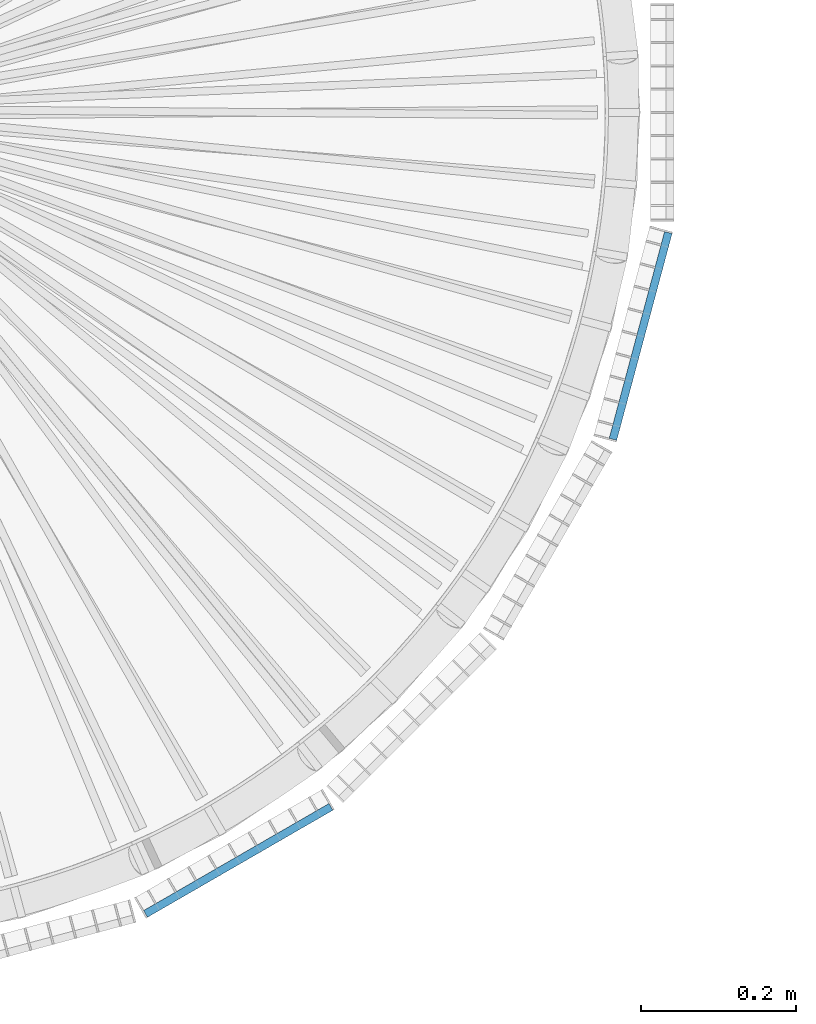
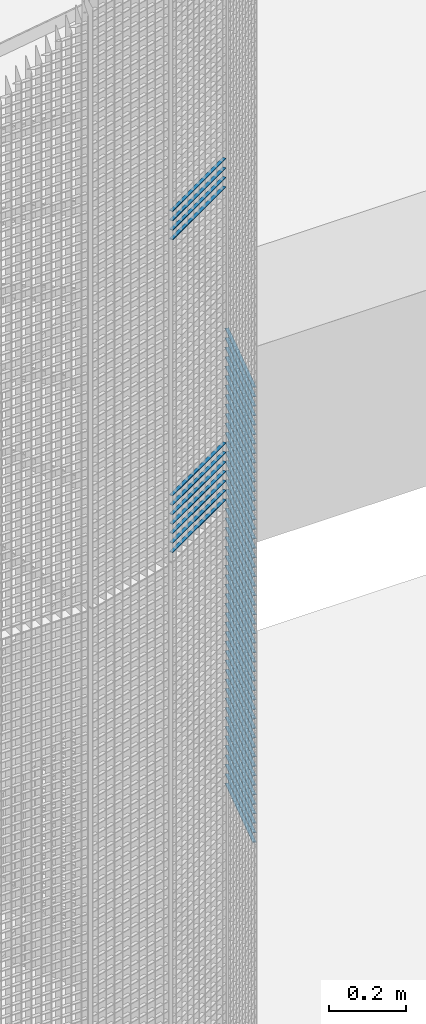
# One storey, part 233 of 1148: 60 beams, 2 elements without a shape of their own.
"""IFC2X3 building model written with IfcOpenShell, lengths in millimetres."""

from ifc_helpers import new_model, si_unit, frame, origin_with_axes, origin_2d_with_axis, place, context, subcontext, project, spatial, rectangle, extrude, material, type_object, element, aggregate, save


model = new_model("IFC2X3")

# Units and contexts
model_context = context("Model", 3, precision=1e-05, world=origin_with_axes())
body_context = subcontext(model_context, "Body", "Model", "MODEL_VIEW")
ifc_project = project(units=[si_unit("LENGTHUNIT", "METRE", prefix="MILLI"), si_unit("AREAUNIT", "SQUARE_METRE"), si_unit("VOLUMEUNIT", "CUBIC_METRE"), si_unit("MASSUNIT", "GRAM", prefix="KILO"), si_unit("TIMEUNIT", "SECOND"), si_unit("PLANEANGLEUNIT", "RADIAN"), si_unit("SOLIDANGLEUNIT", "STERADIAN"), si_unit("THERMODYNAMICTEMPERATUREUNIT", "DEGREE_CELSIUS"), si_unit("LUMINOUSINTENSITYUNIT", "LUMEN")], contexts=[model_context])

# Site, building, storey
site_placement = place(None, origin_with_axes())
site = spatial("IfcSite", under=ifc_project, at=site_placement, Name="Undefined", CompositionType="ELEMENT")
building_placement = place(site_placement, origin_with_axes())
building = spatial("IfcBuilding", under=site, at=building_placement, Name="Undefined", CompositionType="ELEMENT")
storey_placement = place(building_placement, origin_with_axes())
storey = spatial("IfcBuildingStorey", under=building, at=storey_placement, Name="Undefined", CompositionType="ELEMENT", Elevation=0.0)

# Assembly, beams
assembly_1_placement = place(storey_placement, origin_with_axes())
assembly_1 = element("IfcElementAssembly", 1, at=assembly_1_placement, inside=storey, Name="BORDURE", AssemblyPlace="NOTDEFINED", PredefinedType="NOTDEFINED")
ifc_material = material(Name="STEEL/S235JR")
beam_type = type_object("IfcBeamType", Name="PL2*10", PredefinedType="NOTDEFINED")
beam_1_placement = place(assembly_1_placement, frame((437.231955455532, -1033.29996828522, 13020.0), z_axis=(0.499999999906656, -0.866025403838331, 0.0), x_axis=(0.866025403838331, 0.499999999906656, 0.0)))
beam_1 = element("IfcBeam", 2, at=beam_1_placement, type_object=beam_type, material=ifc_material, Name="ENTRETOISE", context=body_context, shape_type="SweptSolid", body=[
    extrude(rectangle(XDim=2.0, YDim=10.0, at=origin_2d_with_axis()), frame((275.999999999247, 9.09494701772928e-13, 1.53210777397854e-14), z_axis=(-1.0, 0.0, 0.0), x_axis=(0.0, -1.0, 0.0)), (0.0, 0.0, 1.0), 276.0),
])
beam_2_placement = place(assembly_1_placement, frame((437.231955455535, -1033.29996828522, 12210.0), z_axis=(0.499999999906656, -0.866025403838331, 0.0), x_axis=(0.866025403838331, 0.499999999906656, 0.0)))
beam_2 = element("IfcBeam", 3, at=beam_2_placement, type_object=beam_type, material=ifc_material, Name="ENTRETOISE", context=body_context, shape_type="SweptSolid", body=[
    extrude(rectangle(XDim=2.0, YDim=10.0, at=origin_2d_with_axis()), frame((275.999999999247, 9.09494701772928e-13, 1.53210777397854e-14), z_axis=(-1.0, 0.0, 0.0), x_axis=(0.0, -1.0, 0.0)), (0.0, 0.0, 1.0), 276.0),
])
beam_3_placement = place(assembly_1_placement, frame((437.231955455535, -1033.29996828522, 12180.0), z_axis=(0.499999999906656, -0.866025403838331, 0.0), x_axis=(0.866025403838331, 0.499999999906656, 0.0)))
beam_3 = element("IfcBeam", 4, at=beam_3_placement, type_object=beam_type, material=ifc_material, Name="ENTRETOISE", context=body_context, shape_type="SweptSolid", body=[
    extrude(rectangle(XDim=2.0, YDim=10.0, at=origin_2d_with_axis()), frame((275.999999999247, 9.09494701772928e-13, 1.53210777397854e-14), z_axis=(-1.0, 0.0, 0.0), x_axis=(0.0, -1.0, 0.0)), (0.0, 0.0, 1.0), 276.0),
])
beam_4_placement = place(assembly_1_placement, frame((437.231955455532, -1033.29996828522, 13050.0), z_axis=(0.499999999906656, -0.866025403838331, 0.0), x_axis=(0.866025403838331, 0.499999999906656, 0.0)))
beam_4 = element("IfcBeam", 5, at=beam_4_placement, type_object=beam_type, material=ifc_material, Name="ENTRETOISE", context=body_context, shape_type="SweptSolid", body=[
    extrude(rectangle(XDim=2.0, YDim=10.0, at=origin_2d_with_axis()), frame((275.999999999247, 9.09494701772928e-13, 1.53210777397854e-14), z_axis=(-1.0, 0.0, 0.0), x_axis=(0.0, -1.0, 0.0)), (0.0, 0.0, 1.0), 276.0),
])
beam_5_placement = place(assembly_1_placement, frame((437.231955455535, -1033.29996828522, 12150.0), z_axis=(0.499999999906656, -0.866025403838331, 0.0), x_axis=(0.866025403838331, 0.499999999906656, 0.0)))
beam_5 = element("IfcBeam", 6, at=beam_5_placement, type_object=beam_type, material=ifc_material, Name="ENTRETOISE", context=body_context, shape_type="SweptSolid", body=[
    extrude(rectangle(XDim=2.0, YDim=10.0, at=origin_2d_with_axis()), frame((275.999999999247, 9.09494701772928e-13, 1.53210777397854e-14), z_axis=(-1.0, 0.0, 0.0), x_axis=(0.0, -1.0, 0.0)), (0.0, 0.0, 1.0), 276.0),
])
beam_6_placement = place(assembly_1_placement, frame((437.231955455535, -1033.29996828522, 12120.0), z_axis=(0.499999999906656, -0.866025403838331, 0.0), x_axis=(0.866025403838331, 0.499999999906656, 0.0)))
beam_6 = element("IfcBeam", 7, at=beam_6_placement, type_object=beam_type, material=ifc_material, Name="ENTRETOISE", context=body_context, shape_type="SweptSolid", body=[
    extrude(rectangle(XDim=2.0, YDim=10.0, at=origin_2d_with_axis()), frame((275.999999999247, 9.09494701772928e-13, 1.53210777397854e-14), z_axis=(-1.0, 0.0, 0.0), x_axis=(0.0, -1.0, 0.0)), (0.0, 0.0, 1.0), 276.0),
])
beam_7_placement = place(assembly_1_placement, frame((437.231955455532, -1033.29996828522, 13080.0), z_axis=(0.499999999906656, -0.866025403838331, 0.0), x_axis=(0.866025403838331, 0.499999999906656, 0.0)))
beam_7 = element("IfcBeam", 8, at=beam_7_placement, type_object=beam_type, material=ifc_material, Name="ENTRETOISE", context=body_context, shape_type="SweptSolid", body=[
    extrude(rectangle(XDim=2.0, YDim=10.0, at=origin_2d_with_axis()), frame((275.999999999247, 9.09494701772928e-13, 1.53210777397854e-14), z_axis=(-1.0, 0.0, 0.0), x_axis=(0.0, -1.0, 0.0)), (0.0, 0.0, 1.0), 276.0),
])
beam_8_placement = place(assembly_1_placement, frame((437.231955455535, -1033.29996828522, 12090.0), z_axis=(0.499999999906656, -0.866025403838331, 0.0), x_axis=(0.866025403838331, 0.499999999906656, 0.0)))
beam_8 = element("IfcBeam", 9, at=beam_8_placement, type_object=beam_type, material=ifc_material, Name="ENTRETOISE", context=body_context, shape_type="SweptSolid", body=[
    extrude(rectangle(XDim=2.0, YDim=10.0, at=origin_2d_with_axis()), frame((275.999999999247, 9.09494701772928e-13, 1.53210777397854e-14), z_axis=(-1.0, 0.0, 0.0), x_axis=(0.0, -1.0, 0.0)), (0.0, 0.0, 1.0), 276.0),
])
beam_9_placement = place(assembly_1_placement, frame((437.231955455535, -1033.29996828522, 12060.0), z_axis=(0.499999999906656, -0.866025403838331, 0.0), x_axis=(0.866025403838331, 0.499999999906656, 0.0)))
beam_9 = element("IfcBeam", 10, at=beam_9_placement, type_object=beam_type, material=ifc_material, Name="ENTRETOISE", context=body_context, shape_type="SweptSolid", body=[
    extrude(rectangle(XDim=2.0, YDim=10.0, at=origin_2d_with_axis()), frame((275.999999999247, 9.09494701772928e-13, 1.53210777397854e-14), z_axis=(-1.0, 0.0, 0.0), x_axis=(0.0, -1.0, 0.0)), (0.0, 0.0, 1.0), 276.0),
])
beam_10_placement = place(assembly_1_placement, frame((437.231955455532, -1033.29996828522, 13110.0), z_axis=(0.499999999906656, -0.866025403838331, 0.0), x_axis=(0.866025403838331, 0.499999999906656, 0.0)))
beam_10 = element("IfcBeam", 11, at=beam_10_placement, type_object=beam_type, material=ifc_material, Name="ENTRETOISE", context=body_context, shape_type="SweptSolid", body=[
    extrude(rectangle(XDim=2.0, YDim=10.0, at=origin_2d_with_axis()), frame((275.999999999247, 9.09494701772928e-13, 1.53210777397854e-14), z_axis=(-1.0, 0.0, 0.0), x_axis=(0.0, -1.0, 0.0)), (0.0, 0.0, 1.0), 276.0),
])
beam_11_placement = place(assembly_1_placement, frame((437.231955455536, -1033.29996828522, 12030.0), z_axis=(0.499999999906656, -0.866025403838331, 0.0), x_axis=(0.866025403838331, 0.499999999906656, 0.0)))
beam_11 = element("IfcBeam", 12, at=beam_11_placement, type_object=beam_type, material=ifc_material, Name="ENTRETOISE", context=body_context, shape_type="SweptSolid", body=[
    extrude(rectangle(XDim=2.0, YDim=10.0, at=origin_2d_with_axis()), frame((275.999999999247, 9.09494701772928e-13, 1.53210777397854e-14), z_axis=(-1.0, 0.0, 0.0), x_axis=(0.0, -1.0, 0.0)), (0.0, 0.0, 1.0), 276.0),
])
aggregate(assembly_1, [beam_1, beam_2, beam_3, beam_4, beam_5, beam_6, beam_7, beam_8, beam_9, beam_10, beam_11])

assembly_2_placement = place(storey_placement, origin_with_axes())
assembly_2 = element("IfcElementAssembly", 13, at=assembly_2_placement, inside=storey, Name="BORDURE", AssemblyPlace="NOTDEFINED", PredefinedType="NOTDEFINED")
beam_12_placement = place(assembly_2_placement, frame((1039.82309522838, -421.483733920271, 11970.0), z_axis=(0.965925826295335, -0.258819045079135, 0.0), x_axis=(0.258819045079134, 0.965925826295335, 0.0)))
beam_12 = element("IfcBeam", 14, at=beam_12_placement, type_object=beam_type, material=ifc_material, Name="ENTRETOISE", context=body_context, shape_type="SweptSolid", body=[
    extrude(rectangle(XDim=2.0, YDim=10.0, at=origin_2d_with_axis()), frame((275.999999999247, 9.09494701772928e-13, 1.53210777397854e-14), z_axis=(-1.0, 0.0, 0.0), x_axis=(0.0, -1.0, 0.0)), (0.0, 0.0, 1.0), 276.0),
])
beam_13_placement = place(assembly_2_placement, frame((1039.82309522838, -421.483733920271, 11940.0), z_axis=(0.965925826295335, -0.258819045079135, 0.0), x_axis=(0.258819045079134, 0.965925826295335, 0.0)))
beam_13 = element("IfcBeam", 15, at=beam_13_placement, type_object=beam_type, material=ifc_material, Name="ENTRETOISE", context=body_context, shape_type="SweptSolid", body=[
    extrude(rectangle(XDim=2.0, YDim=10.0, at=origin_2d_with_axis()), frame((275.999999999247, 9.09494701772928e-13, 1.53210777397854e-14), z_axis=(-1.0, 0.0, 0.0), x_axis=(0.0, -1.0, 0.0)), (0.0, 0.0, 1.0), 276.0),
])
beam_14_placement = place(assembly_2_placement, frame((1039.82309522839, -421.483733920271, 11910.0), z_axis=(0.965925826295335, -0.258819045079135, 0.0), x_axis=(0.258819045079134, 0.965925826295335, 0.0)))
beam_14 = element("IfcBeam", 16, at=beam_14_placement, type_object=beam_type, material=ifc_material, Name="ENTRETOISE", context=body_context, shape_type="SweptSolid", body=[
    extrude(rectangle(XDim=2.0, YDim=10.0, at=origin_2d_with_axis()), frame((275.999999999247, 9.09494701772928e-13, 1.53210777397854e-14), z_axis=(-1.0, 0.0, 0.0), x_axis=(0.0, -1.0, 0.0)), (0.0, 0.0, 1.0), 276.0),
])
beam_15_placement = place(assembly_2_placement, frame((1039.82309522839, -421.483733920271, 11880.0), z_axis=(0.965925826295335, -0.258819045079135, 0.0), x_axis=(0.258819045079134, 0.965925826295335, 0.0)))
beam_15 = element("IfcBeam", 17, at=beam_15_placement, type_object=beam_type, material=ifc_material, Name="ENTRETOISE", context=body_context, shape_type="SweptSolid", body=[
    extrude(rectangle(XDim=2.0, YDim=10.0, at=origin_2d_with_axis()), frame((275.999999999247, 9.09494701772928e-13, 1.53210777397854e-14), z_axis=(-1.0, 0.0, 0.0), x_axis=(0.0, -1.0, 0.0)), (0.0, 0.0, 1.0), 276.0),
])
beam_16_placement = place(assembly_2_placement, frame((1039.82309522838, -421.483733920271, 11850.0), z_axis=(0.965925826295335, -0.258819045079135, 0.0), x_axis=(0.258819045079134, 0.965925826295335, 0.0)))
beam_16 = element("IfcBeam", 18, at=beam_16_placement, type_object=beam_type, material=ifc_material, Name="ENTRETOISE", context=body_context, shape_type="SweptSolid", body=[
    extrude(rectangle(XDim=2.0, YDim=10.0, at=origin_2d_with_axis()), frame((275.999999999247, 9.09494701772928e-13, 1.53210777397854e-14), z_axis=(-1.0, 0.0, 0.0), x_axis=(0.0, -1.0, 0.0)), (0.0, 0.0, 1.0), 276.0),
])
beam_17_placement = place(assembly_2_placement, frame((1039.82309522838, -421.483733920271, 11820.0), z_axis=(0.965925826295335, -0.258819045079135, 0.0), x_axis=(0.258819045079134, 0.965925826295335, 0.0)))
beam_17 = element("IfcBeam", 19, at=beam_17_placement, type_object=beam_type, material=ifc_material, Name="ENTRETOISE", context=body_context, shape_type="SweptSolid", body=[
    extrude(rectangle(XDim=2.0, YDim=10.0, at=origin_2d_with_axis()), frame((275.999999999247, 9.09494701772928e-13, 1.53210777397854e-14), z_axis=(-1.0, 0.0, 0.0), x_axis=(0.0, -1.0, 0.0)), (0.0, 0.0, 1.0), 276.0),
])
beam_18_placement = place(assembly_2_placement, frame((1039.82309522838, -421.483733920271, 11790.0), z_axis=(0.965925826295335, -0.258819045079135, 0.0), x_axis=(0.258819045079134, 0.965925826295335, 0.0)))
beam_18 = element("IfcBeam", 20, at=beam_18_placement, type_object=beam_type, material=ifc_material, Name="ENTRETOISE", context=body_context, shape_type="SweptSolid", body=[
    extrude(rectangle(XDim=2.0, YDim=10.0, at=origin_2d_with_axis()), frame((275.999999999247, 9.09494701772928e-13, 1.53210777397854e-14), z_axis=(-1.0, 0.0, 0.0), x_axis=(0.0, -1.0, 0.0)), (0.0, 0.0, 1.0), 276.0),
])
beam_19_placement = place(assembly_2_placement, frame((1039.82309522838, -421.483733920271, 11760.0), z_axis=(0.965925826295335, -0.258819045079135, 0.0), x_axis=(0.258819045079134, 0.965925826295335, 0.0)))
beam_19 = element("IfcBeam", 21, at=beam_19_placement, type_object=beam_type, material=ifc_material, Name="ENTRETOISE", context=body_context, shape_type="SweptSolid", body=[
    extrude(rectangle(XDim=2.0, YDim=10.0, at=origin_2d_with_axis()), frame((275.999999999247, 9.09494701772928e-13, 1.53210777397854e-14), z_axis=(-1.0, 0.0, 0.0), x_axis=(0.0, -1.0, 0.0)), (0.0, 0.0, 1.0), 276.0),
])
beam_20_placement = place(assembly_2_placement, frame((1039.82309522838, -421.48373392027, 11730.0), z_axis=(0.965925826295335, -0.258819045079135, 0.0), x_axis=(0.258819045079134, 0.965925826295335, 0.0)))
beam_20 = element("IfcBeam", 22, at=beam_20_placement, type_object=beam_type, material=ifc_material, Name="ENTRETOISE", context=body_context, shape_type="SweptSolid", body=[
    extrude(rectangle(XDim=2.0, YDim=10.0, at=origin_2d_with_axis()), frame((275.999999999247, 9.09494701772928e-13, 1.53210777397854e-14), z_axis=(-1.0, 0.0, 0.0), x_axis=(0.0, -1.0, 0.0)), (0.0, 0.0, 1.0), 276.0),
])
beam_21_placement = place(assembly_2_placement, frame((1039.82309522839, -421.48373392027, 11700.0), z_axis=(0.965925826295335, -0.258819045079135, 0.0), x_axis=(0.258819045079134, 0.965925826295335, 0.0)))
beam_21 = element("IfcBeam", 23, at=beam_21_placement, type_object=beam_type, material=ifc_material, Name="ENTRETOISE", context=body_context, shape_type="SweptSolid", body=[
    extrude(rectangle(XDim=2.0, YDim=10.0, at=origin_2d_with_axis()), frame((275.999999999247, 9.09494701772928e-13, 1.53210777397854e-14), z_axis=(-1.0, 0.0, 0.0), x_axis=(0.0, -1.0, 0.0)), (0.0, 0.0, 1.0), 276.0),
])
beam_22_placement = place(assembly_2_placement, frame((1039.82309522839, -421.48373392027, 11670.0), z_axis=(0.965925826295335, -0.258819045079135, 0.0), x_axis=(0.258819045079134, 0.965925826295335, 0.0)))
beam_22 = element("IfcBeam", 24, at=beam_22_placement, type_object=beam_type, material=ifc_material, Name="ENTRETOISE", context=body_context, shape_type="SweptSolid", body=[
    extrude(rectangle(XDim=2.0, YDim=10.0, at=origin_2d_with_axis()), frame((275.999999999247, 9.09494701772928e-13, 1.53210777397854e-14), z_axis=(-1.0, 0.0, 0.0), x_axis=(0.0, -1.0, 0.0)), (0.0, 0.0, 1.0), 276.0),
])
beam_23_placement = place(assembly_2_placement, frame((1039.82309522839, -421.48373392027, 11640.0), z_axis=(0.965925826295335, -0.258819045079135, 0.0), x_axis=(0.258819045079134, 0.965925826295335, 0.0)))
beam_23 = element("IfcBeam", 25, at=beam_23_placement, type_object=beam_type, material=ifc_material, Name="ENTRETOISE", context=body_context, shape_type="SweptSolid", body=[
    extrude(rectangle(XDim=2.0, YDim=10.0, at=origin_2d_with_axis()), frame((275.999999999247, 9.09494701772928e-13, 1.53210777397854e-14), z_axis=(-1.0, 0.0, 0.0), x_axis=(0.0, -1.0, 0.0)), (0.0, 0.0, 1.0), 276.0),
])
beam_24_placement = place(assembly_2_placement, frame((1039.82309522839, -421.48373392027, 11610.0), z_axis=(0.965925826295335, -0.258819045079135, 0.0), x_axis=(0.258819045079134, 0.965925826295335, 0.0)))
beam_24 = element("IfcBeam", 26, at=beam_24_placement, type_object=beam_type, material=ifc_material, Name="ENTRETOISE", context=body_context, shape_type="SweptSolid", body=[
    extrude(rectangle(XDim=2.0, YDim=10.0, at=origin_2d_with_axis()), frame((275.999999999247, 9.09494701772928e-13, 1.53210777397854e-14), z_axis=(-1.0, 0.0, 0.0), x_axis=(0.0, -1.0, 0.0)), (0.0, 0.0, 1.0), 276.0),
])
beam_25_placement = place(assembly_2_placement, frame((1039.82309522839, -421.48373392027, 11580.0), z_axis=(0.965925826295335, -0.258819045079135, 0.0), x_axis=(0.258819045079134, 0.965925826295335, 0.0)))
beam_25 = element("IfcBeam", 27, at=beam_25_placement, type_object=beam_type, material=ifc_material, Name="ENTRETOISE", context=body_context, shape_type="SweptSolid", body=[
    extrude(rectangle(XDim=2.0, YDim=10.0, at=origin_2d_with_axis()), frame((275.999999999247, 9.09494701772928e-13, 1.53210777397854e-14), z_axis=(-1.0, 0.0, 0.0), x_axis=(0.0, -1.0, 0.0)), (0.0, 0.0, 1.0), 276.0),
])
beam_26_placement = place(assembly_2_placement, frame((1039.82309522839, -421.48373392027, 11550.0), z_axis=(0.965925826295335, -0.258819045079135, 0.0), x_axis=(0.258819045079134, 0.965925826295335, 0.0)))
beam_26 = element("IfcBeam", 28, at=beam_26_placement, type_object=beam_type, material=ifc_material, Name="ENTRETOISE", context=body_context, shape_type="SweptSolid", body=[
    extrude(rectangle(XDim=2.0, YDim=10.0, at=origin_2d_with_axis()), frame((275.999999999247, 9.09494701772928e-13, 1.53210777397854e-14), z_axis=(-1.0, 0.0, 0.0), x_axis=(0.0, -1.0, 0.0)), (0.0, 0.0, 1.0), 276.0),
])
beam_27_placement = place(assembly_2_placement, frame((1039.82309522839, -421.48373392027, 11520.0), z_axis=(0.965925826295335, -0.258819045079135, 0.0), x_axis=(0.258819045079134, 0.965925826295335, 0.0)))
beam_27 = element("IfcBeam", 29, at=beam_27_placement, type_object=beam_type, material=ifc_material, Name="ENTRETOISE", context=body_context, shape_type="SweptSolid", body=[
    extrude(rectangle(XDim=2.0, YDim=10.0, at=origin_2d_with_axis()), frame((275.999999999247, 9.09494701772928e-13, 1.53210777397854e-14), z_axis=(-1.0, 0.0, 0.0), x_axis=(0.0, -1.0, 0.0)), (0.0, 0.0, 1.0), 276.0),
])
beam_28_placement = place(assembly_2_placement, frame((1039.82309522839, -421.48373392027, 11490.0), z_axis=(0.965925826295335, -0.258819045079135, 0.0), x_axis=(0.258819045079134, 0.965925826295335, 0.0)))
beam_28 = element("IfcBeam", 30, at=beam_28_placement, type_object=beam_type, material=ifc_material, Name="ENTRETOISE", context=body_context, shape_type="SweptSolid", body=[
    extrude(rectangle(XDim=2.0, YDim=10.0, at=origin_2d_with_axis()), frame((275.999999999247, 9.09494701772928e-13, 1.53210777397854e-14), z_axis=(-1.0, 0.0, 0.0), x_axis=(0.0, -1.0, 0.0)), (0.0, 0.0, 1.0), 276.0),
])
beam_29_placement = place(assembly_2_placement, frame((1039.82309522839, -421.483733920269, 11460.0), z_axis=(0.965925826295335, -0.258819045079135, 0.0), x_axis=(0.258819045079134, 0.965925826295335, 0.0)))
beam_29 = element("IfcBeam", 31, at=beam_29_placement, type_object=beam_type, material=ifc_material, Name="ENTRETOISE", context=body_context, shape_type="SweptSolid", body=[
    extrude(rectangle(XDim=2.0, YDim=10.0, at=origin_2d_with_axis()), frame((275.999999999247, 9.09494701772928e-13, 1.53210777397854e-14), z_axis=(-1.0, 0.0, 0.0), x_axis=(0.0, -1.0, 0.0)), (0.0, 0.0, 1.0), 276.0),
])
beam_30_placement = place(assembly_2_placement, frame((1039.82309522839, -421.483733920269, 11430.0), z_axis=(0.965925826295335, -0.258819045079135, 0.0), x_axis=(0.258819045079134, 0.965925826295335, 0.0)))
beam_30 = element("IfcBeam", 32, at=beam_30_placement, type_object=beam_type, material=ifc_material, Name="ENTRETOISE", context=body_context, shape_type="SweptSolid", body=[
    extrude(rectangle(XDim=2.0, YDim=10.0, at=origin_2d_with_axis()), frame((275.999999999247, 9.09494701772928e-13, 1.53210777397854e-14), z_axis=(-1.0, 0.0, 0.0), x_axis=(0.0, -1.0, 0.0)), (0.0, 0.0, 1.0), 276.0),
])
beam_31_placement = place(assembly_2_placement, frame((1039.82309522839, -421.483733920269, 11400.0), z_axis=(0.965925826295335, -0.258819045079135, 0.0), x_axis=(0.258819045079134, 0.965925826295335, 0.0)))
beam_31 = element("IfcBeam", 33, at=beam_31_placement, type_object=beam_type, material=ifc_material, Name="ENTRETOISE", context=body_context, shape_type="SweptSolid", body=[
    extrude(rectangle(XDim=2.0, YDim=10.0, at=origin_2d_with_axis()), frame((275.999999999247, 9.09494701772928e-13, 1.53210777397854e-14), z_axis=(-1.0, 0.0, 0.0), x_axis=(0.0, -1.0, 0.0)), (0.0, 0.0, 1.0), 276.0),
])
beam_32_placement = place(assembly_2_placement, frame((1039.82309522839, -421.483733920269, 11370.0), z_axis=(0.965925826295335, -0.258819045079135, 0.0), x_axis=(0.258819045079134, 0.965925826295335, 0.0)))
beam_32 = element("IfcBeam", 34, at=beam_32_placement, type_object=beam_type, material=ifc_material, Name="ENTRETOISE", context=body_context, shape_type="SweptSolid", body=[
    extrude(rectangle(XDim=2.0, YDim=10.0, at=origin_2d_with_axis()), frame((275.999999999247, 9.09494701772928e-13, 1.53210777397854e-14), z_axis=(-1.0, 0.0, 0.0), x_axis=(0.0, -1.0, 0.0)), (0.0, 0.0, 1.0), 276.0),
])
beam_33_placement = place(assembly_2_placement, frame((1039.82309522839, -421.483733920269, 11340.0), z_axis=(0.965925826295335, -0.258819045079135, 0.0), x_axis=(0.258819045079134, 0.965925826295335, 0.0)))
beam_33 = element("IfcBeam", 35, at=beam_33_placement, type_object=beam_type, material=ifc_material, Name="ENTRETOISE", context=body_context, shape_type="SweptSolid", body=[
    extrude(rectangle(XDim=2.0, YDim=10.0, at=origin_2d_with_axis()), frame((275.999999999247, 9.09494701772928e-13, 1.53210777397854e-14), z_axis=(-1.0, 0.0, 0.0), x_axis=(0.0, -1.0, 0.0)), (0.0, 0.0, 1.0), 276.0),
])
beam_34_placement = place(assembly_2_placement, frame((1039.82309522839, -421.483733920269, 11310.0), z_axis=(0.965925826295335, -0.258819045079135, 0.0), x_axis=(0.258819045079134, 0.965925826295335, 0.0)))
beam_34 = element("IfcBeam", 36, at=beam_34_placement, type_object=beam_type, material=ifc_material, Name="ENTRETOISE", context=body_context, shape_type="SweptSolid", body=[
    extrude(rectangle(XDim=2.0, YDim=10.0, at=origin_2d_with_axis()), frame((275.999999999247, 9.09494701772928e-13, 1.53210777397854e-14), z_axis=(-1.0, 0.0, 0.0), x_axis=(0.0, -1.0, 0.0)), (0.0, 0.0, 1.0), 276.0),
])
beam_35_placement = place(assembly_2_placement, frame((1039.82309522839, -421.483733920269, 11280.0), z_axis=(0.965925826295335, -0.258819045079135, 0.0), x_axis=(0.258819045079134, 0.965925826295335, 0.0)))
beam_35 = element("IfcBeam", 37, at=beam_35_placement, type_object=beam_type, material=ifc_material, Name="ENTRETOISE", context=body_context, shape_type="SweptSolid", body=[
    extrude(rectangle(XDim=2.0, YDim=10.0, at=origin_2d_with_axis()), frame((275.999999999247, 9.09494701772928e-13, 1.53210777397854e-14), z_axis=(-1.0, 0.0, 0.0), x_axis=(0.0, -1.0, 0.0)), (0.0, 0.0, 1.0), 276.0),
])
beam_36_placement = place(assembly_2_placement, frame((1039.82309522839, -421.483733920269, 11250.0), z_axis=(0.965925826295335, -0.258819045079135, 0.0), x_axis=(0.258819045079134, 0.965925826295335, 0.0)))
beam_36 = element("IfcBeam", 38, at=beam_36_placement, type_object=beam_type, material=ifc_material, Name="ENTRETOISE", context=body_context, shape_type="SweptSolid", body=[
    extrude(rectangle(XDim=2.0, YDim=10.0, at=origin_2d_with_axis()), frame((275.999999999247, 9.09494701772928e-13, 1.53210777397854e-14), z_axis=(-1.0, 0.0, 0.0), x_axis=(0.0, -1.0, 0.0)), (0.0, 0.0, 1.0), 276.0),
])
beam_37_placement = place(assembly_2_placement, frame((1039.82309522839, -421.483733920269, 11220.0), z_axis=(0.965925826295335, -0.258819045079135, 0.0), x_axis=(0.258819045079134, 0.965925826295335, 0.0)))
beam_37 = element("IfcBeam", 39, at=beam_37_placement, type_object=beam_type, material=ifc_material, Name="ENTRETOISE", context=body_context, shape_type="SweptSolid", body=[
    extrude(rectangle(XDim=2.0, YDim=10.0, at=origin_2d_with_axis()), frame((275.999999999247, 9.09494701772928e-13, 1.53210777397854e-14), z_axis=(-1.0, 0.0, 0.0), x_axis=(0.0, -1.0, 0.0)), (0.0, 0.0, 1.0), 276.0),
])
beam_38_placement = place(assembly_2_placement, frame((1039.82309522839, -421.483733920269, 11190.0), z_axis=(0.965925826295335, -0.258819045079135, 0.0), x_axis=(0.258819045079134, 0.965925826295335, 0.0)))
beam_38 = element("IfcBeam", 40, at=beam_38_placement, type_object=beam_type, material=ifc_material, Name="ENTRETOISE", context=body_context, shape_type="SweptSolid", body=[
    extrude(rectangle(XDim=2.0, YDim=10.0, at=origin_2d_with_axis()), frame((275.999999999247, 9.09494701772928e-13, 1.53210777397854e-14), z_axis=(-1.0, 0.0, 0.0), x_axis=(0.0, -1.0, 0.0)), (0.0, 0.0, 1.0), 276.0),
])
beam_39_placement = place(assembly_2_placement, frame((1039.82309522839, -421.483733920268, 11160.0), z_axis=(0.965925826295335, -0.258819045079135, 0.0), x_axis=(0.258819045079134, 0.965925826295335, 0.0)))
beam_39 = element("IfcBeam", 41, at=beam_39_placement, type_object=beam_type, material=ifc_material, Name="ENTRETOISE", context=body_context, shape_type="SweptSolid", body=[
    extrude(rectangle(XDim=2.0, YDim=10.0, at=origin_2d_with_axis()), frame((275.999999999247, 9.09494701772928e-13, 1.53210777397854e-14), z_axis=(-1.0, 0.0, 0.0), x_axis=(0.0, -1.0, 0.0)), (0.0, 0.0, 1.0), 276.0),
])
beam_40_placement = place(assembly_2_placement, frame((1039.82309522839, -421.483733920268, 11130.0), z_axis=(0.965925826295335, -0.258819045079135, 0.0), x_axis=(0.258819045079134, 0.965925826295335, 0.0)))
beam_40 = element("IfcBeam", 42, at=beam_40_placement, type_object=beam_type, material=ifc_material, Name="ENTRETOISE", context=body_context, shape_type="SweptSolid", body=[
    extrude(rectangle(XDim=2.0, YDim=10.0, at=origin_2d_with_axis()), frame((275.999999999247, 9.09494701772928e-13, 1.53210777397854e-14), z_axis=(-1.0, 0.0, 0.0), x_axis=(0.0, -1.0, 0.0)), (0.0, 0.0, 1.0), 276.0),
])
beam_41_placement = place(assembly_2_placement, frame((1039.82309522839, -421.483733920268, 11100.0), z_axis=(0.965925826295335, -0.258819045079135, 0.0), x_axis=(0.258819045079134, 0.965925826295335, 0.0)))
beam_41 = element("IfcBeam", 43, at=beam_41_placement, type_object=beam_type, material=ifc_material, Name="ENTRETOISE", context=body_context, shape_type="SweptSolid", body=[
    extrude(rectangle(XDim=2.0, YDim=10.0, at=origin_2d_with_axis()), frame((275.999999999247, 9.09494701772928e-13, 1.53210777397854e-14), z_axis=(-1.0, 0.0, 0.0), x_axis=(0.0, -1.0, 0.0)), (0.0, 0.0, 1.0), 276.0),
])
beam_42_placement = place(assembly_2_placement, frame((1039.82309522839, -421.483733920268, 11070.0), z_axis=(0.965925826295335, -0.258819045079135, 0.0), x_axis=(0.258819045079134, 0.965925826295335, 0.0)))
beam_42 = element("IfcBeam", 44, at=beam_42_placement, type_object=beam_type, material=ifc_material, Name="ENTRETOISE", context=body_context, shape_type="SweptSolid", body=[
    extrude(rectangle(XDim=2.0, YDim=10.0, at=origin_2d_with_axis()), frame((275.999999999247, 9.09494701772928e-13, 1.53210777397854e-14), z_axis=(-1.0, 0.0, 0.0), x_axis=(0.0, -1.0, 0.0)), (0.0, 0.0, 1.0), 276.0),
])
beam_43_placement = place(assembly_2_placement, frame((1039.82309522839, -421.483733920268, 11040.0), z_axis=(0.965925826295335, -0.258819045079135, 0.0), x_axis=(0.258819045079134, 0.965925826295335, 0.0)))
beam_43 = element("IfcBeam", 45, at=beam_43_placement, type_object=beam_type, material=ifc_material, Name="ENTRETOISE", context=body_context, shape_type="SweptSolid", body=[
    extrude(rectangle(XDim=2.0, YDim=10.0, at=origin_2d_with_axis()), frame((275.999999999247, 9.09494701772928e-13, 1.53210777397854e-14), z_axis=(-1.0, 0.0, 0.0), x_axis=(0.0, -1.0, 0.0)), (0.0, 0.0, 1.0), 276.0),
])
beam_44_placement = place(assembly_2_placement, frame((1039.82309522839, -421.483733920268, 11010.0), z_axis=(0.965925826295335, -0.258819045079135, 0.0), x_axis=(0.258819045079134, 0.965925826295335, 0.0)))
beam_44 = element("IfcBeam", 46, at=beam_44_placement, type_object=beam_type, material=ifc_material, Name="ENTRETOISE", context=body_context, shape_type="SweptSolid", body=[
    extrude(rectangle(XDim=2.0, YDim=10.0, at=origin_2d_with_axis()), frame((275.999999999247, 9.09494701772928e-13, 1.53210777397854e-14), z_axis=(-1.0, 0.0, 0.0), x_axis=(0.0, -1.0, 0.0)), (0.0, 0.0, 1.0), 276.0),
])
beam_45_placement = place(assembly_2_placement, frame((1039.82309522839, -421.483733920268, 10980.0), z_axis=(0.965925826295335, -0.258819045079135, 0.0), x_axis=(0.258819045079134, 0.965925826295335, 0.0)))
beam_45 = element("IfcBeam", 47, at=beam_45_placement, type_object=beam_type, material=ifc_material, Name="ENTRETOISE", context=body_context, shape_type="SweptSolid", body=[
    extrude(rectangle(XDim=2.0, YDim=10.0, at=origin_2d_with_axis()), frame((275.999999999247, 9.09494701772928e-13, 1.53210777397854e-14), z_axis=(-1.0, 0.0, 0.0), x_axis=(0.0, -1.0, 0.0)), (0.0, 0.0, 1.0), 276.0),
])
beam_46_placement = place(assembly_2_placement, frame((1039.82309522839, -421.483733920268, 10950.0), z_axis=(0.965925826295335, -0.258819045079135, 0.0), x_axis=(0.258819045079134, 0.965925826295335, 0.0)))
beam_46 = element("IfcBeam", 48, at=beam_46_placement, type_object=beam_type, material=ifc_material, Name="ENTRETOISE", context=body_context, shape_type="SweptSolid", body=[
    extrude(rectangle(XDim=2.0, YDim=10.0, at=origin_2d_with_axis()), frame((275.999999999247, 9.09494701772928e-13, 1.53210777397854e-14), z_axis=(-1.0, 0.0, 0.0), x_axis=(0.0, -1.0, 0.0)), (0.0, 0.0, 1.0), 276.0),
])
beam_47_placement = place(assembly_2_placement, frame((1039.82309522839, -421.483733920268, 10920.0), z_axis=(0.965925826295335, -0.258819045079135, 0.0), x_axis=(0.258819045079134, 0.965925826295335, 0.0)))
beam_47 = element("IfcBeam", 49, at=beam_47_placement, type_object=beam_type, material=ifc_material, Name="ENTRETOISE", context=body_context, shape_type="SweptSolid", body=[
    extrude(rectangle(XDim=2.0, YDim=10.0, at=origin_2d_with_axis()), frame((275.999999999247, 9.09494701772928e-13, 1.53210777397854e-14), z_axis=(-1.0, 0.0, 0.0), x_axis=(0.0, -1.0, 0.0)), (0.0, 0.0, 1.0), 276.0),
])
beam_48_placement = place(assembly_2_placement, frame((1039.82309522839, -421.483733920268, 10890.0), z_axis=(0.965925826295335, -0.258819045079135, 0.0), x_axis=(0.258819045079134, 0.965925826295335, 0.0)))
beam_48 = element("IfcBeam", 50, at=beam_48_placement, type_object=beam_type, material=ifc_material, Name="ENTRETOISE", context=body_context, shape_type="SweptSolid", body=[
    extrude(rectangle(XDim=2.0, YDim=10.0, at=origin_2d_with_axis()), frame((275.999999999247, 9.09494701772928e-13, 1.53210777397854e-14), z_axis=(-1.0, 0.0, 0.0), x_axis=(0.0, -1.0, 0.0)), (0.0, 0.0, 1.0), 276.0),
])
beam_49_placement = place(assembly_2_placement, frame((1039.82309522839, -421.483733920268, 10860.0), z_axis=(0.965925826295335, -0.258819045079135, 0.0), x_axis=(0.258819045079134, 0.965925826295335, 0.0)))
beam_49 = element("IfcBeam", 51, at=beam_49_placement, type_object=beam_type, material=ifc_material, Name="ENTRETOISE", context=body_context, shape_type="SweptSolid", body=[
    extrude(rectangle(XDim=2.0, YDim=10.0, at=origin_2d_with_axis()), frame((275.999999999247, 9.09494701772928e-13, 1.53210777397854e-14), z_axis=(-1.0, 0.0, 0.0), x_axis=(0.0, -1.0, 0.0)), (0.0, 0.0, 1.0), 276.0),
])
beam_50_placement = place(assembly_2_placement, frame((1039.82309522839, -421.483733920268, 10830.0), z_axis=(0.965925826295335, -0.258819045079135, 0.0), x_axis=(0.258819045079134, 0.965925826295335, 0.0)))
beam_50 = element("IfcBeam", 52, at=beam_50_placement, type_object=beam_type, material=ifc_material, Name="ENTRETOISE", context=body_context, shape_type="SweptSolid", body=[
    extrude(rectangle(XDim=2.0, YDim=10.0, at=origin_2d_with_axis()), frame((275.999999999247, 9.09494701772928e-13, 1.53210777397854e-14), z_axis=(-1.0, 0.0, 0.0), x_axis=(0.0, -1.0, 0.0)), (0.0, 0.0, 1.0), 276.0),
])
beam_51_placement = place(assembly_2_placement, frame((1039.82309522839, -421.483733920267, 10800.0), z_axis=(0.965925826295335, -0.258819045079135, 0.0), x_axis=(0.258819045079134, 0.965925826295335, 0.0)))
beam_51 = element("IfcBeam", 53, at=beam_51_placement, type_object=beam_type, material=ifc_material, Name="ENTRETOISE", context=body_context, shape_type="SweptSolid", body=[
    extrude(rectangle(XDim=2.0, YDim=10.0, at=origin_2d_with_axis()), frame((275.999999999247, 9.09494701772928e-13, 1.53210777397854e-14), z_axis=(-1.0, 0.0, 0.0), x_axis=(0.0, -1.0, 0.0)), (0.0, 0.0, 1.0), 276.0),
])
beam_52_placement = place(assembly_2_placement, frame((1039.82309522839, -421.483733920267, 10770.0), z_axis=(0.965925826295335, -0.258819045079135, 0.0), x_axis=(0.258819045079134, 0.965925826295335, 0.0)))
beam_52 = element("IfcBeam", 54, at=beam_52_placement, type_object=beam_type, material=ifc_material, Name="ENTRETOISE", context=body_context, shape_type="SweptSolid", body=[
    extrude(rectangle(XDim=2.0, YDim=10.0, at=origin_2d_with_axis()), frame((275.999999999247, 9.09494701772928e-13, 1.53210777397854e-14), z_axis=(-1.0, 0.0, 0.0), x_axis=(0.0, -1.0, 0.0)), (0.0, 0.0, 1.0), 276.0),
])
beam_53_placement = place(assembly_2_placement, frame((1039.82309522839, -421.483733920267, 10740.0), z_axis=(0.965925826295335, -0.258819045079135, 0.0), x_axis=(0.258819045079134, 0.965925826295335, 0.0)))
beam_53 = element("IfcBeam", 55, at=beam_53_placement, type_object=beam_type, material=ifc_material, Name="ENTRETOISE", context=body_context, shape_type="SweptSolid", body=[
    extrude(rectangle(XDim=2.0, YDim=10.0, at=origin_2d_with_axis()), frame((275.999999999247, 9.09494701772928e-13, 1.53210777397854e-14), z_axis=(-1.0, 0.0, 0.0), x_axis=(0.0, -1.0, 0.0)), (0.0, 0.0, 1.0), 276.0),
])
beam_54_placement = place(assembly_2_placement, frame((1039.82309522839, -421.483733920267, 10710.0), z_axis=(0.965925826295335, -0.258819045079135, 0.0), x_axis=(0.258819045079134, 0.965925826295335, 0.0)))
beam_54 = element("IfcBeam", 56, at=beam_54_placement, type_object=beam_type, material=ifc_material, Name="ENTRETOISE", context=body_context, shape_type="SweptSolid", body=[
    extrude(rectangle(XDim=2.0, YDim=10.0, at=origin_2d_with_axis()), frame((275.999999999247, 9.09494701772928e-13, 1.53210777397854e-14), z_axis=(-1.0, 0.0, 0.0), x_axis=(0.0, -1.0, 0.0)), (0.0, 0.0, 1.0), 276.0),
])
beam_55_placement = place(assembly_2_placement, frame((1039.82309522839, -421.483733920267, 10680.0), z_axis=(0.965925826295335, -0.258819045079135, 0.0), x_axis=(0.258819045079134, 0.965925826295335, 0.0)))
beam_55 = element("IfcBeam", 57, at=beam_55_placement, type_object=beam_type, material=ifc_material, Name="ENTRETOISE", context=body_context, shape_type="SweptSolid", body=[
    extrude(rectangle(XDim=2.0, YDim=10.0, at=origin_2d_with_axis()), frame((275.999999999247, 9.09494701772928e-13, 1.53210777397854e-14), z_axis=(-1.0, 0.0, 0.0), x_axis=(0.0, -1.0, 0.0)), (0.0, 0.0, 1.0), 276.0),
])
beam_56_placement = place(assembly_2_placement, frame((1039.82309522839, -421.483733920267, 10650.0), z_axis=(0.965925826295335, -0.258819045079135, 0.0), x_axis=(0.258819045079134, 0.965925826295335, 0.0)))
beam_56 = element("IfcBeam", 58, at=beam_56_placement, type_object=beam_type, material=ifc_material, Name="ENTRETOISE", context=body_context, shape_type="SweptSolid", body=[
    extrude(rectangle(XDim=2.0, YDim=10.0, at=origin_2d_with_axis()), frame((275.999999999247, 9.09494701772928e-13, 1.53210777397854e-14), z_axis=(-1.0, 0.0, 0.0), x_axis=(0.0, -1.0, 0.0)), (0.0, 0.0, 1.0), 276.0),
])
beam_57_placement = place(assembly_2_placement, frame((1039.82309522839, -421.483733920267, 10620.0), z_axis=(0.965925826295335, -0.258819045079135, 0.0), x_axis=(0.258819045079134, 0.965925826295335, 0.0)))
beam_57 = element("IfcBeam", 59, at=beam_57_placement, type_object=beam_type, material=ifc_material, Name="ENTRETOISE", context=body_context, shape_type="SweptSolid", body=[
    extrude(rectangle(XDim=2.0, YDim=10.0, at=origin_2d_with_axis()), frame((275.999999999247, 9.09494701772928e-13, 1.53210777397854e-14), z_axis=(-1.0, 0.0, 0.0), x_axis=(0.0, -1.0, 0.0)), (0.0, 0.0, 1.0), 276.0),
])
beam_58_placement = place(assembly_2_placement, frame((1039.82309522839, -421.483733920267, 10590.0), z_axis=(0.965925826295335, -0.258819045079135, 0.0), x_axis=(0.258819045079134, 0.965925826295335, 0.0)))
beam_58 = element("IfcBeam", 60, at=beam_58_placement, type_object=beam_type, material=ifc_material, Name="ENTRETOISE", context=body_context, shape_type="SweptSolid", body=[
    extrude(rectangle(XDim=2.0, YDim=10.0, at=origin_2d_with_axis()), frame((275.999999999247, 9.09494701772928e-13, 1.53210777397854e-14), z_axis=(-1.0, 0.0, 0.0), x_axis=(0.0, -1.0, 0.0)), (0.0, 0.0, 1.0), 276.0),
])
beam_59_placement = place(assembly_2_placement, frame((1039.82309522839, -421.483733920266, 10560.0), z_axis=(0.965925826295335, -0.258819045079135, 0.0), x_axis=(0.258819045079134, 0.965925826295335, 0.0)))
beam_59 = element("IfcBeam", 61, at=beam_59_placement, type_object=beam_type, material=ifc_material, Name="ENTRETOISE", context=body_context, shape_type="SweptSolid", body=[
    extrude(rectangle(XDim=2.0, YDim=10.0, at=origin_2d_with_axis()), frame((275.999999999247, 9.09494701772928e-13, 1.53210777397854e-14), z_axis=(-1.0, 0.0, 0.0), x_axis=(0.0, -1.0, 0.0)), (0.0, 0.0, 1.0), 276.0),
])
beam_60_placement = place(assembly_2_placement, frame((1039.82309522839, -421.483733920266, 10530.0), z_axis=(0.965925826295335, -0.258819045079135, 0.0), x_axis=(0.258819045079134, 0.965925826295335, 0.0)))
beam_60 = element("IfcBeam", 62, at=beam_60_placement, type_object=beam_type, material=ifc_material, Name="ENTRETOISE", context=body_context, shape_type="SweptSolid", body=[
    extrude(rectangle(XDim=2.0, YDim=10.0, at=origin_2d_with_axis()), frame((275.999999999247, 9.09494701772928e-13, 1.53210777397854e-14), z_axis=(-1.0, 0.0, 0.0), x_axis=(0.0, -1.0, 0.0)), (0.0, 0.0, 1.0), 276.0),
])
aggregate(assembly_2, [beam_12, beam_13, beam_14, beam_15, beam_16, beam_17, beam_18, beam_19, beam_20, beam_21, beam_22, beam_23, beam_24, beam_25, beam_26, beam_27, beam_28, beam_29, beam_30, beam_31, beam_32, beam_33, beam_34, beam_35, beam_36, beam_37, beam_38, beam_39, beam_40, beam_41, beam_42, beam_43, beam_44, beam_45, beam_46, beam_47, beam_48, beam_49, beam_50, beam_51, beam_52, beam_53, beam_54, beam_55, beam_56, beam_57, beam_58, beam_59, beam_60])

save(model, "model.ifc")
